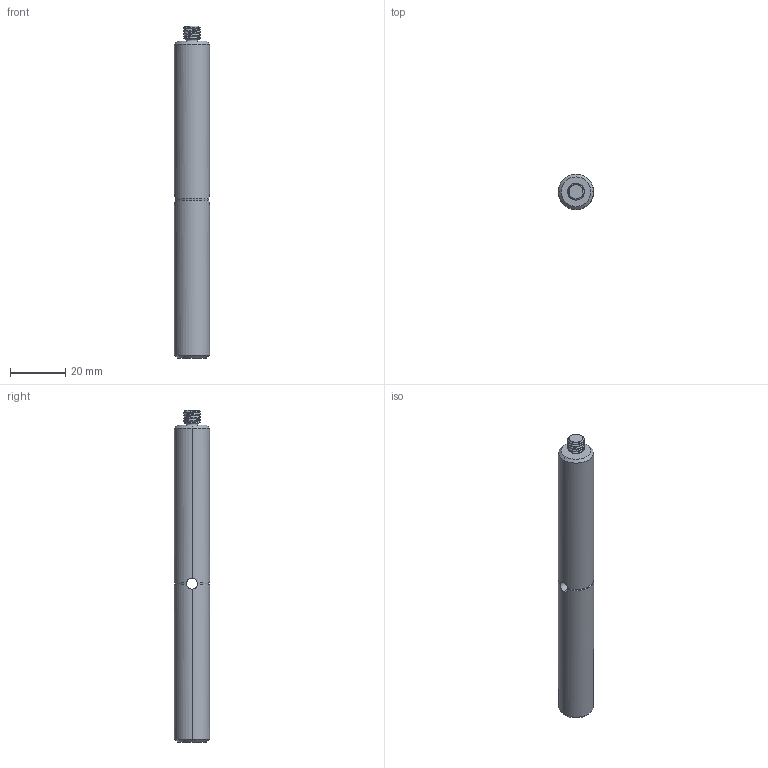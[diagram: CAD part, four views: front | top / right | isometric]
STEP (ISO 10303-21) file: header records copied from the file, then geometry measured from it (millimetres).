
FILE_DESCRIPTION((''),'2;1');
FILE_NAME('PCAH4_5-A','2023-03-14T14:27:36',('R&D'),(''),'CREO PARAMETRIC BY PTC INC, 2022162','CREO PARAMETRIC BY PTC INC, 2022162','');
FILE_SCHEMA(('CONFIG_CONTROL_DESIGN'));
Length unit declared in the file: millimetre
Products named in the file (1): PCAH4_5-A
Bounding box: 12.7 x 12.7 x 119.8 mm (x, y, z)
Volume: 14125.8 mm3; surface area: 5299.9 mm2
Topology: 1 solids, 1 shells, 69 faces, 184 edges, 116 vertices
Faces by surface type: cylinder 37, bspline 14, cone 12, plane 4, torus 2
Entity records: 4537 total; most frequent: CARTESIAN_POINT 2992, ORIENTED_EDGE 364, DIRECTION 229, EDGE_CURVE 182, VERTEX_POINT 116, B_SPLINE_CURVE_WITH_KNOTS 93, AXIS2_PLACEMENT_3D 85, EDGE_LOOP 72
